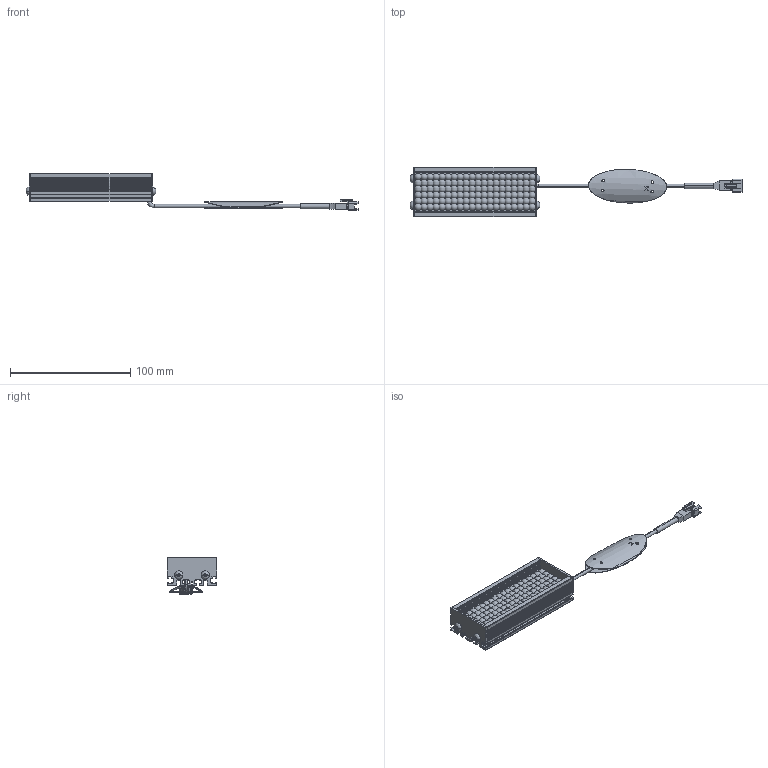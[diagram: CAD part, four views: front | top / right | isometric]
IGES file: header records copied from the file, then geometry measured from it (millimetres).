
Start section: 3D InterOp IGES (v. 2019 1.0.2), Spatial Corp. Copyright (c) 1999-2017.
Global section: file name: VBA-10030_DRAWING_3D.iges; native system: Spatial Corp.; preprocessor: 3D InterOp ACIS/IGES; author: Noname; organization: Noname; date: 20230914.100623; units: millimetre
Bounding box: 276 x 41 x 30.5 mm (x, y, z)
Surface area: 51737.7 mm2 (no closed solid volume)
Topology: 0 solids, 0 shells, 1224 faces, 7090 edges, 7090 vertices
Faces by surface type: extrusion 664, revolution 554, bspline 6
